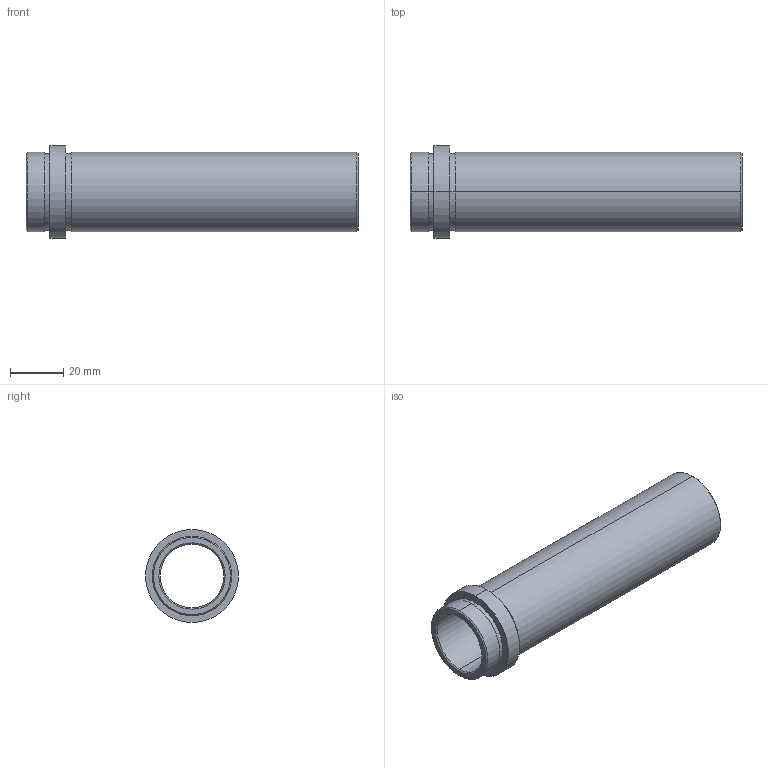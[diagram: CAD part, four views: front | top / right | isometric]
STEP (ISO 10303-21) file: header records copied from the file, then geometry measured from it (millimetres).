
FILE_DESCRIPTION( ( 'STEP AP203' ), '1' );
FILE_NAME( 'D:/Delta 3 D/D21/D21 - 24x116.step', '2002-12-31T22:47:17', ( ' ' ), ( ' ' ), 'XStep 1.0', ' ', ' ' );
FILE_SCHEMA( ( 'CONFIG_CONTROL_DESIGN' ) );
Length unit declared in the file: metre
Products named in the file (1): 1
Bounding box: 125 x 35 x 35 mm (x, y, z)
Volume: 33112.4 mm3; surface area: 22392.9 mm2
Topology: 1 solids, 1 shells, 26 faces, 52 edges, 32 vertices
Faces by surface type: revolution 20, bspline 6
Entity records: 773 total; most frequent: CARTESIAN_POINT 169, DIRECTION 106, ORIENTED_EDGE 104, EDGE_CURVE 52, AXIS2_PLACEMENT_3D 33, EDGE_LOOP 32, VERTEX_POINT 32, CIRCLE 32
